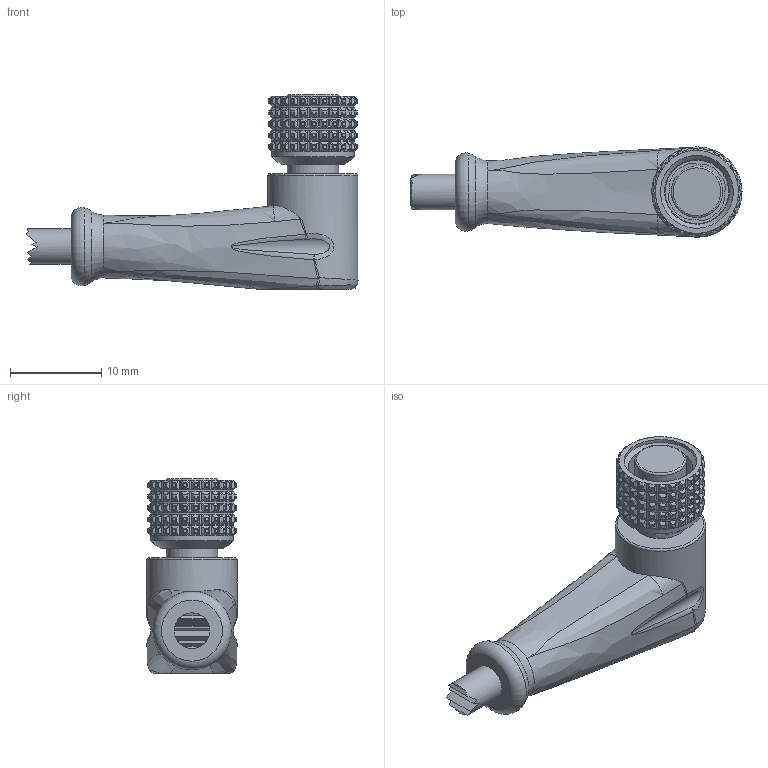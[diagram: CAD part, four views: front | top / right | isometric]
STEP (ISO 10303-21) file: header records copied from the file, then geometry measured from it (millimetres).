
FILE_DESCRIPTION((''),'2;1');
FILE_NAME('C:\Users\enrico\Desktop\Ale\Sito\AUTOMAZIONE_2020\Connettori circolari per sensori e attuatori\Singola testa\Step\M8 Fe ang.stp','2020-06-24T10:52:11',('Tecnico2'),(''),'Autodesk Inventor 2012','Autodesk Inventor 2012','');
FILE_SCHEMA(('AUTOMOTIVE_DESIGN { 1 0 10303 214 1 1 1 1 }'));
Length unit declared in the file: millimetre
Products named in the file (3): C08F3B1; ghiera M8
Assembly tree (2 placements, depth 2):
  C08F3B1
    C08F3B1
    ghiera M8
Bounding box: 36.46 x 9.9 x 21.4 mm (x, y, z)
Volume: 2706.3 mm3; surface area: 1827 mm2
Topology: 2 solids, 2 shells, 2340 faces, 5747 edges, 3370 vertices
Faces by surface type: bspline 533, sphere 502, cylinder 404, plane 392, torus 256, cone 253
Full cylindrical faces by diameter (mm): 3.9 x1, 5.65 x1, 7.1 x1, 7.4 x1, 8 x1, 9.1 x5, 9.9 x1
Entity records: 87020 total; most frequent: CARTESIAN_POINT 38413, ORIENTED_EDGE 11360, DIRECTION 9093, EDGE_CURVE 5680, AXIS2_PLACEMENT_3D 4159, VERTEX_POINT 3367, EDGE_LOOP 2365, FACE_OUTER_BOUND 2340
